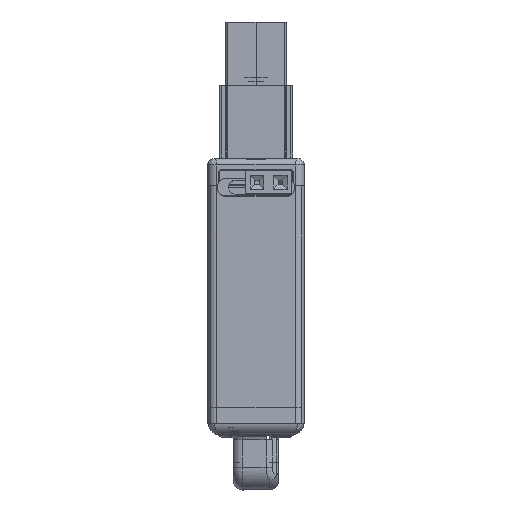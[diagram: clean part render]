
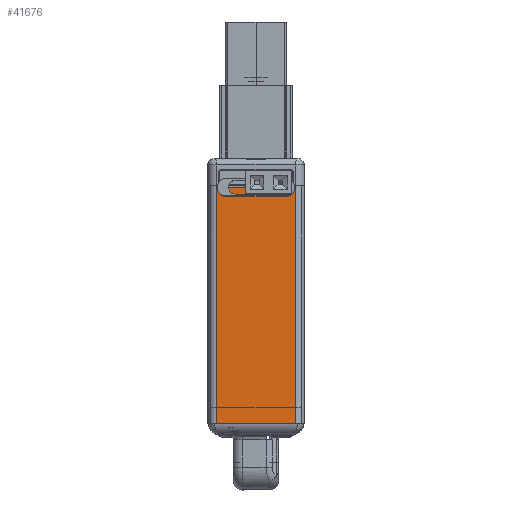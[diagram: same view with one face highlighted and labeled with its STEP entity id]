
A CAD part, top view. The second image highlights one B-rep face of the part: STEP entity #41676.
In plain terms, the highlighted planar face has unit normal (0, 0, 1).
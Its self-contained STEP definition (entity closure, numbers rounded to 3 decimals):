
#41368=DIRECTION('',(-1.,0.,0.));
#41369=VECTOR('',#41368,8.6);
#41370=CARTESIAN_POINT('',(-4.393,55.3,0.296));
#41371=LINE('',#41370,#41369);
#41372=DIRECTION('',(0.,1.,0.));
#41373=VECTOR('',#41372,26.);
#41374=CARTESIAN_POINT('',(-12.993,55.3,0.296));
#41375=LINE('',#41374,#41373);
#41376=DIRECTION('',(1.,0.,0.));
#41377=VECTOR('',#41376,8.6);
#41378=CARTESIAN_POINT('',(-12.993,81.3,0.296));
#41379=LINE('',#41378,#41377);
#41385=DIRECTION('',(0.,1.,0.));
#41386=VECTOR('',#41385,26.);
#41387=CARTESIAN_POINT('',(-4.393,55.3,0.296));
#41388=LINE('',#41387,#41386);
#41454=CARTESIAN_POINT('',(-12.993,55.3,0.296));
#41455=VERTEX_POINT('',#41454);
#41456=CARTESIAN_POINT('',(-4.393,55.3,0.296));
#41457=VERTEX_POINT('',#41456);
#41486=CARTESIAN_POINT('',(-12.993,81.3,0.296));
#41487=VERTEX_POINT('',#41486);
#41488=CARTESIAN_POINT('',(-4.393,81.3,0.296));
#41489=VERTEX_POINT('',#41488);
#41662=CARTESIAN_POINT('',(-12.993,55.3,0.296));
#41663=DIRECTION('',(0.,0.,1.));
#41664=DIRECTION('',(1.,0.,0.));
#41665=AXIS2_PLACEMENT_3D('',#41662,#41663,#41664);
#41666=PLANE('',#41665);
#41668=ORIENTED_EDGE('',*,*,#41667,.T.);
#41669=ORIENTED_EDGE('',*,*,#41657,.T.);
#41671=ORIENTED_EDGE('',*,*,#41670,.T.);
#41673=ORIENTED_EDGE('',*,*,#41672,.F.);
#41674=EDGE_LOOP('',(#41668,#41669,#41671,#41673));
#41675=FACE_OUTER_BOUND('',#41674,.F.);
#41676=ADVANCED_FACE('',(#41675),#41666,.T.);
#41657=EDGE_CURVE('',#41455,#41487,#41375,.T.);
#41667=EDGE_CURVE('',#41457,#41455,#41371,.T.);
#41670=EDGE_CURVE('',#41487,#41489,#41379,.T.);
#41672=EDGE_CURVE('',#41457,#41489,#41388,.T.);
